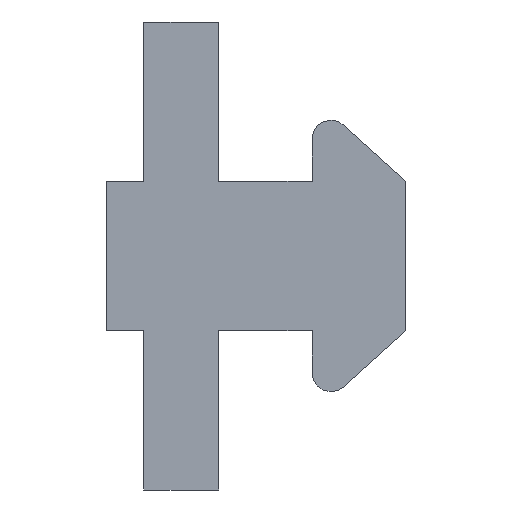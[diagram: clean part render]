
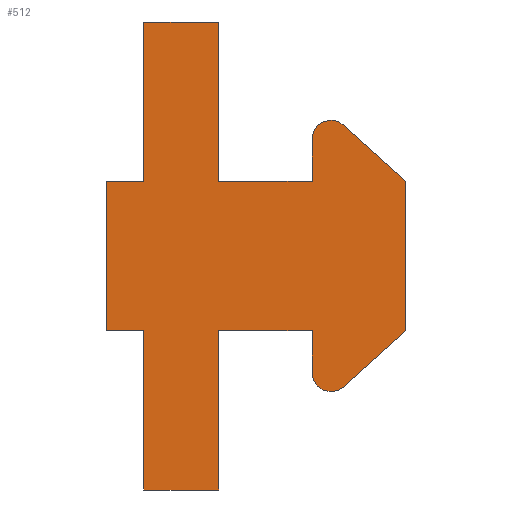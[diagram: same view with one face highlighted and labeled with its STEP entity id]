
A CAD part, left-side view. The second image highlights one B-rep face of the part: STEP entity #512.
In plain terms, the highlighted planar face has unit normal (-1, 0, 0).
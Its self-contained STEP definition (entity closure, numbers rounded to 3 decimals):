
#4 = CARTESIAN_POINT ( 'NONE',  ( -500., -29., -4. ) ) ;
#7 = EDGE_CURVE ( 'NONE', #202, #297, #257, .T. ) ;
#9 = ORIENTED_EDGE ( 'NONE', *, *, #714, .F. ) ;
#13 = DIRECTION ( 'NONE',  ( 0., 0., 1. ) ) ;
#27 = ORIENTED_EDGE ( 'NONE', *, *, #629, .F. ) ;
#29 = CARTESIAN_POINT ( 'NONE',  ( -500., -30.669, -6.998 ) ) ;
#39 = EDGE_CURVE ( 'NONE', #327, #202, #516, .T. ) ;
#41 = VERTEX_POINT ( 'NONE', #523 ) ;
#52 = VERTEX_POINT ( 'NONE', #29 ) ;
#53 = DIRECTION ( 'NONE',  ( 0., 0., -1. ) ) ;
#54 = ORIENTED_EDGE ( 'NONE', *, *, #604, .F. ) ;
#57 = VECTOR ( 'NONE', #94, 1000. ) ;
#62 = ORIENTED_EDGE ( 'NONE', *, *, #480, .F. ) ;
#63 = CARTESIAN_POINT ( 'NONE',  ( -500., -24., -4. ) ) ;
#66 = LINE ( 'NONE', #583, #673 ) ;
#79 = DIRECTION ( 'NONE',  ( 0., 0., -1. ) ) ;
#83 = LINE ( 'NONE', #452, #57 ) ;
#86 = CARTESIAN_POINT ( 'NONE',  ( -500., -29., 4. ) ) ;
#90 = DIRECTION ( 'NONE',  ( 0., 1., 0. ) ) ;
#92 = DIRECTION ( 'NONE',  ( 0., 0., 1. ) ) ;
#94 = DIRECTION ( 'NONE',  ( 0., -1., 0. ) ) ;
#101 = AXIS2_PLACEMENT_3D ( 'NONE', #104, #716, #441 ) ;
#104 = CARTESIAN_POINT ( 'NONE',  ( -500., -30., 6.255 ) ) ;
#108 = VECTOR ( 'NONE', #435, 1000. ) ;
#112 = AXIS2_PLACEMENT_3D ( 'NONE', #578, #633, #658 ) ;
#115 = LINE ( 'NONE', #563, #453 ) ;
#120 = EDGE_CURVE ( 'NONE', #237, #468, #306, .T. ) ;
#121 = ORIENTED_EDGE ( 'NONE', *, *, #425, .F. ) ;
#126 = LINE ( 'NONE', #507, #247 ) ;
#128 = VECTOR ( 'NONE', #92, 1000. ) ;
#130 = CARTESIAN_POINT ( 'NONE',  ( -500., -18., 4. ) ) ;
#135 = CARTESIAN_POINT ( 'NONE',  ( -500., -24., 12.5 ) ) ;
#140 = VERTEX_POINT ( 'NONE', #459 ) ;
#146 = CARTESIAN_POINT ( 'NONE',  ( -500., -18., -4. ) ) ;
#148 = VERTEX_POINT ( 'NONE', #135 ) ;
#147 = FACE_OUTER_BOUND ( 'NONE', #285, .T. ) ;
#155 = CARTESIAN_POINT ( 'NONE',  ( -500., -34., -4. ) ) ;
#159 = LINE ( 'NONE', #189, #362 ) ;
#160 = CARTESIAN_POINT ( 'NONE',  ( -500., -24., -12.5 ) ) ;
#183 = ORIENTED_EDGE ( 'NONE', *, *, #39, .F. ) ;
#189 = CARTESIAN_POINT ( 'NONE',  ( -500., -20., -4. ) ) ;
#193 = CARTESIAN_POINT ( 'NONE',  ( -500., -34., 4. ) ) ;
#199 = VERTEX_POINT ( 'NONE', #63 ) ;
#201 = CARTESIAN_POINT ( 'NONE',  ( -500., -20., 4. ) ) ;
#202 = VERTEX_POINT ( 'NONE', #130 ) ;
#205 = CARTESIAN_POINT ( 'NONE',  ( -500., -29., 6.255 ) ) ;
#211 = ORIENTED_EDGE ( 'NONE', *, *, #300, .F. ) ;
#220 = VECTOR ( 'NONE', #227, 1000. ) ;
#225 = VERTEX_POINT ( 'NONE', #601 ) ;
#227 = DIRECTION ( 'NONE',  ( 0., 0.743, -0.669 ) ) ;
#237 = VERTEX_POINT ( 'NONE', #713 ) ;
#241 = CIRCLE ( 'NONE', #112, 1. ) ;
#243 = EDGE_CURVE ( 'NONE', #148, #41, #580, .T. ) ;
#247 = VECTOR ( 'NONE', #649, 1000. ) ;
#248 = VECTOR ( 'NONE', #478, 1000. ) ;
#254 = EDGE_CURVE ( 'NONE', #52, #535, #241, .T. ) ;
#257 = LINE ( 'NONE', #732, #506 ) ;
#260 = VERTEX_POINT ( 'NONE', #322 ) ;
#261 = DIRECTION ( 'NONE',  ( 1., 0., 0. ) ) ;
#262 = CARTESIAN_POINT ( 'NONE',  ( -500., -20., 12.5 ) ) ;
#271 = ORIENTED_EDGE ( 'NONE', *, *, #254, .F. ) ;
#283 = ORIENTED_EDGE ( 'NONE', *, *, #611, .F. ) ;
#285 = EDGE_LOOP ( 'NONE', ( #54, #283, #62, #9, #211, #27, #271, #312, #570, #328, #121, #356, #424, #551, #307, #366, #390, #702, #183 ) ) ;
#290 = DIRECTION ( 'NONE',  ( 0., 0., -1. ) ) ;
#297 = VERTEX_POINT ( 'NONE', #735 ) ;
#300 = EDGE_CURVE ( 'NONE', #225, #199, #115, .T. ) ;
#302 = DIRECTION ( 'NONE',  ( 1., 0., 0. ) ) ;
#306 = LINE ( 'NONE', #528, #612 ) ;
#305 = VECTOR ( 'NONE', #79, 1000. ) ;
#307 = ORIENTED_EDGE ( 'NONE', *, *, #243, .F. ) ;
#312 = ORIENTED_EDGE ( 'NONE', *, *, #410, .F. ) ;
#322 = CARTESIAN_POINT ( 'NONE',  ( -500., -20., -12.5 ) ) ;
#327 = VERTEX_POINT ( 'NONE', #146 ) ;
#328 = ORIENTED_EDGE ( 'NONE', *, *, #120, .F. ) ;
#341 = DIRECTION ( 'NONE',  ( 0., 0., 1. ) ) ;
#345 = LINE ( 'NONE', #201, #549 ) ;
#356 = ORIENTED_EDGE ( 'NONE', *, *, #393, .F. ) ;
#362 = VECTOR ( 'NONE', #13, 1000. ) ;
#366 = ORIENTED_EDGE ( 'NONE', *, *, #415, .F. ) ;
#375 = VECTOR ( 'NONE', #290, 1000. ) ;
#383 = CARTESIAN_POINT ( 'NONE',  ( -500., -30., 7.255 ) ) ;
#390 = ORIENTED_EDGE ( 'NONE', *, *, #559, .F. ) ;
#393 = EDGE_CURVE ( 'NONE', #481, #646, #665, .T. ) ;
#401 = VERTEX_POINT ( 'NONE', #155 ) ;
#406 = VECTOR ( 'NONE', #596, 1000. ) ;
#407 = LINE ( 'NONE', #490, #552 ) ;
#410 = EDGE_CURVE ( 'NONE', #401, #52, #587, .T. ) ;
#413 = CARTESIAN_POINT ( 'NONE',  ( -500., -18., 4. ) ) ;
#415 = EDGE_CURVE ( 'NONE', #691, #148, #718, .T. ) ;
#416 = CARTESIAN_POINT ( 'NONE',  ( -500., -20., -12.5 ) ) ;
#423 = PLANE ( 'NONE',  #656 ) ;
#424 = ORIENTED_EDGE ( 'NONE', *, *, #694, .F. ) ;
#425 = EDGE_CURVE ( 'NONE', #646, #237, #659, .T. ) ;
#434 = CARTESIAN_POINT ( 'NONE',  ( -500., -30., -6.255 ) ) ;
#435 = DIRECTION ( 'NONE',  ( 0., 0., 1. ) ) ;
#441 = DIRECTION ( 'NONE',  ( 0., 0., 1. ) ) ;
#443 = EDGE_CURVE ( 'NONE', #468, #401, #66, .T. ) ;
#452 = CARTESIAN_POINT ( 'NONE',  ( -500., -24., 4. ) ) ;
#453 = VECTOR ( 'NONE', #90, 1000. ) ;
#458 = EDGE_CURVE ( 'NONE', #41, #608, #83, .T. ) ;
#459 = CARTESIAN_POINT ( 'NONE',  ( -500., -20., -4. ) ) ;
#468 = VERTEX_POINT ( 'NONE', #193 ) ;
#469 = CARTESIAN_POINT ( 'NONE',  ( -500., -30.669, -6.998 ) ) ;
#478 = DIRECTION ( 'NONE',  ( 0., -1., 0. ) ) ;
#480 = EDGE_CURVE ( 'NONE', #736, #260, #721, .T. ) ;
#481 = VERTEX_POINT ( 'NONE', #205 ) ;
#483 = DIRECTION ( 'NONE',  ( 0., -1., 0. ) ) ;
#490 = CARTESIAN_POINT ( 'NONE',  ( -500., -29., 4. ) ) ;
#493 = CARTESIAN_POINT ( 'NONE',  ( -500., -29., -6.255 ) ) ;
#506 = VECTOR ( 'NONE', #483, 1000. ) ;
#507 = CARTESIAN_POINT ( 'NONE',  ( -500., -18., -4. ) ) ;
#512 = ADVANCED_FACE ( 'NONE', ( #147 ), #423, .F. ) ;
#516 = LINE ( 'NONE', #413, #108 ) ;
#523 = CARTESIAN_POINT ( 'NONE',  ( -500., -24., 4. ) ) ;
#528 = CARTESIAN_POINT ( 'NONE',  ( -500., -30.669, 6.998 ) ) ;
#535 = VERTEX_POINT ( 'NONE', #493 ) ;
#549 = VECTOR ( 'NONE', #556, 1000. ) ;
#551 = ORIENTED_EDGE ( 'NONE', *, *, #458, .F. ) ;
#552 = VECTOR ( 'NONE', #576, 1000. ) ;
#556 = DIRECTION ( 'NONE',  ( 0., 0., 1. ) ) ;
#559 = EDGE_CURVE ( 'NONE', #297, #691, #345, .T. ) ;
#563 = CARTESIAN_POINT ( 'NONE',  ( -500., -24., -4. ) ) ;
#566 = LINE ( 'NONE', #4, #128 ) ;
#570 = ORIENTED_EDGE ( 'NONE', *, *, #443, .F. ) ;
#576 = DIRECTION ( 'NONE',  ( 0., 0., 1. ) ) ;
#578 = CARTESIAN_POINT ( 'NONE',  ( -500., -30., -6.255 ) ) ;
#580 = LINE ( 'NONE', #652, #305 ) ;
#583 = CARTESIAN_POINT ( 'NONE',  ( -500., -34., -4. ) ) ;
#587 = LINE ( 'NONE', #469, #220 ) ;
#596 = DIRECTION ( 'NONE',  ( 0., 1., 0. ) ) ;
#601 = CARTESIAN_POINT ( 'NONE',  ( -500., -29., -4. ) ) ;
#604 = EDGE_CURVE ( 'NONE', #140, #327, #126, .T. ) ;
#607 = CARTESIAN_POINT ( 'NONE',  ( -500., -30., 6.255 ) ) ;
#608 = VERTEX_POINT ( 'NONE', #86 ) ;
#610 = AXIS2_PLACEMENT_3D ( 'NONE', #607, #261, #341 ) ;
#611 = EDGE_CURVE ( 'NONE', #260, #140, #159, .T. ) ;
#612 = VECTOR ( 'NONE', #638, 1000. ) ;
#629 = EDGE_CURVE ( 'NONE', #535, #225, #566, .T. ) ;
#633 = DIRECTION ( 'NONE',  ( 1., 0., 0. ) ) ;
#638 = DIRECTION ( 'NONE',  ( 0., -0.743, -0.669 ) ) ;
#646 = VERTEX_POINT ( 'NONE', #383 ) ;
#649 = DIRECTION ( 'NONE',  ( 0., 1., 0. ) ) ;
#652 = CARTESIAN_POINT ( 'NONE',  ( -500., -24., 12.5 ) ) ;
#656 = AXIS2_PLACEMENT_3D ( 'NONE', #434, #302, #726 ) ;
#658 = DIRECTION ( 'NONE',  ( 0., 0., -1. ) ) ;
#659 = CIRCLE ( 'NONE', #101, 1. ) ;
#662 = CARTESIAN_POINT ( 'NONE',  ( -500., -24., -12.5 ) ) ;
#665 = CIRCLE ( 'NONE', #610, 1. ) ;
#673 = VECTOR ( 'NONE', #53, 1000. ) ;
#675 = CARTESIAN_POINT ( 'NONE',  ( -500., -20., 12.5 ) ) ;
#691 = VERTEX_POINT ( 'NONE', #675 ) ;
#694 = EDGE_CURVE ( 'NONE', #608, #481, #407, .T. ) ;
#702 = ORIENTED_EDGE ( 'NONE', *, *, #7, .F. ) ;
#713 = CARTESIAN_POINT ( 'NONE',  ( -500., -30.669, 6.998 ) ) ;
#714 = EDGE_CURVE ( 'NONE', #199, #736, #724, .T. ) ;
#716 = DIRECTION ( 'NONE',  ( 1., 0., 0. ) ) ;
#718 = LINE ( 'NONE', #262, #248 ) ;
#721 = LINE ( 'NONE', #416, #406 ) ;
#724 = LINE ( 'NONE', #662, #375 ) ;
#726 = DIRECTION ( 'NONE',  ( 0., 0., -1. ) ) ;
#732 = CARTESIAN_POINT ( 'NONE',  ( -500., -18., 4. ) ) ;
#735 = CARTESIAN_POINT ( 'NONE',  ( -500., -20., 4. ) ) ;
#736 = VERTEX_POINT ( 'NONE', #160 ) ;
